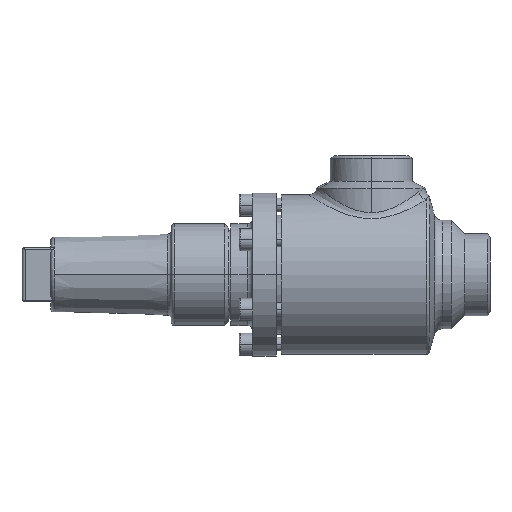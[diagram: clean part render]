
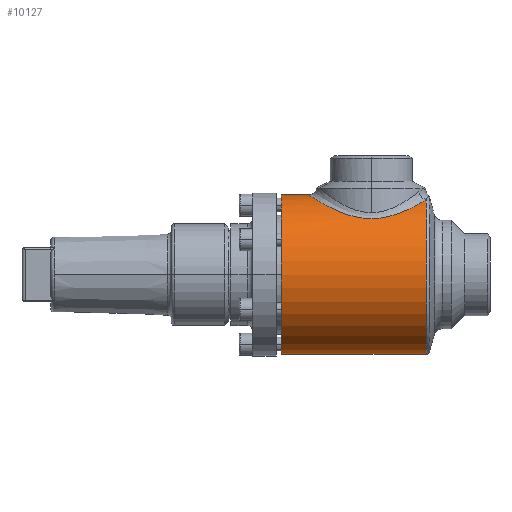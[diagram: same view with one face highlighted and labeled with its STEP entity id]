
A CAD part, left-side view. The second image highlights one B-rep face of the part: STEP entity #10127.
In plain terms, the highlighted cylindrical face has radius 47 mm (diameter 94 mm), a partial arc.
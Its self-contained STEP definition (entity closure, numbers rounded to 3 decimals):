
#1161 = ORIENTED_EDGE ( 'NONE', *, *, #14429, .T. ) ;
#1659 = EDGE_CURVE ( 'NONE', #2511, #12725, #6747, .T. ) ;
#2011 = ORIENTED_EDGE ( 'NONE', *, *, #1659, .T. ) ;
#2137 = ORIENTED_EDGE ( 'NONE', *, *, #14006, .F. ) ;
#2511 = VERTEX_POINT ( 'NONE', #9504 ) ;
#2730 = EDGE_CURVE ( 'NONE', #7236, #2511, #9711, .T. ) ;
#3049 = ORIENTED_EDGE ( 'NONE', *, *, #2730, .T. ) ;
#6747 = B_SPLINE_CURVE_WITH_KNOTS ( 'NONE', 3,
 ( #6748, #6749, #6750, #6751, #6752, #6753, #6754, #6755, #6756, #6757, #6758, #6761, #6762, #6763, #6764, #6765, #6766, #6767, #6768, #6769, #6770, #6771, #6772, #6773, #6774, #6775, #6776, #6780, #6781, #6782, #6783, #6784, #6785, #6786, #6787, #6788, #6789, #6790, #6791, #6792, #6793, #6794, #6795, #6797, #6798, #6799, #6800, #6801, #6802, #6803, #6804, #6805, #6806, #6807, #6808, #6809, #6810, #6811, #6812, #6814, #6815, #6816 ),
 .UNSPECIFIED., .F., .F.,
 ( 4, 2, 2, 2, 2, 2, 2, 2, 2, 2, 2, 2, 2, 2, 2, 2, 2, 2, 2, 2, 2, 2, 2, 2, 2, 2, 2, 2, 2, 2, 4 ),
 ( 0.017, 0.023, 0.026, 0.029, 0.035, 0.039, 0.04, 0.042, 0.048, 0.051, 0.052, 0.054, 0.06, 0.063, 0.066, 0.069, 0.072, 0.078, 0.081, 0.083, 0.084, 0.09, 0.093, 0.095, 0.096, 0.103, 0.106, 0.107, 0.109, 0.112, 0.115 ),
 .UNSPECIFIED. ) ;
#6748 = CARTESIAN_POINT ( 'NONE',  ( -16.073, -85.446, 44.166 ) ) ;
#6749 = CARTESIAN_POINT ( 'NONE',  ( -17.749, -84.43, 43.556 ) ) ;
#6750 = CARTESIAN_POINT ( 'NONE',  ( -19.293, -83.29, 42.887 ) ) ;
#6751 = CARTESIAN_POINT ( 'NONE',  ( -21.444, -81.41, 41.831 ) ) ;
#6752 = CARTESIAN_POINT ( 'NONE',  ( -22.133, -80.755, 41.469 ) ) ;
#6753 = CARTESIAN_POINT ( 'NONE',  ( -23.459, -79.389, 40.734 ) ) ;
#6754 = CARTESIAN_POINT ( 'NONE',  ( -24.096, -78.676, 40.359 ) ) ;
#6755 = CARTESIAN_POINT ( 'NONE',  ( -25.907, -76.48, 39.24 ) ) ;
#6756 = CARTESIAN_POINT ( 'NONE',  ( -26.989, -74.936, 38.497 ) ) ;
#6757 = CARTESIAN_POINT ( 'NONE',  ( -28.44, -72.491, 37.424 ) ) ;
#6758 = CARTESIAN_POINT ( 'NONE',  ( -28.894, -71.655, 37.073 ) ) ;
#6761 = CARTESIAN_POINT ( 'NONE',  ( -29.533, -70.366, 36.563 ) ) ;
#6762 = CARTESIAN_POINT ( 'NONE',  ( -29.739, -69.93, 36.396 ) ) ;
#6763 = CARTESIAN_POINT ( 'NONE',  ( -30.137, -69.047, 36.067 ) ) ;
#6764 = CARTESIAN_POINT ( 'NONE',  ( -30.328, -68.599, 35.906 ) ) ;
#6765 = CARTESIAN_POINT ( 'NONE',  ( -31.243, -66.344, 35.126 ) ) ;
#6766 = CARTESIAN_POINT ( 'NONE',  ( -31.842, -64.482, 34.576 ) ) ;
#6767 = CARTESIAN_POINT ( 'NONE',  ( -32.541, -61.591, 33.914 ) ) ;
#6768 = CARTESIAN_POINT ( 'NONE',  ( -32.74, -60.61, 33.721 ) ) ;
#6769 = CARTESIAN_POINT ( 'NONE',  ( -32.986, -59.111, 33.48 ) ) ;
#6770 = CARTESIAN_POINT ( 'NONE',  ( -33.059, -58.608, 33.408 ) ) ;
#6771 = CARTESIAN_POINT ( 'NONE',  ( -33.186, -57.603, 33.282 ) ) ;
#6772 = CARTESIAN_POINT ( 'NONE',  ( -33.239, -57.1, 33.229 ) ) ;
#6773 = CARTESIAN_POINT ( 'NONE',  ( -33.462, -54.583, 33.006 ) ) ;
#6774 = CARTESIAN_POINT ( 'NONE',  ( -33.49, -52.562, 32.976 ) ) ;
#6775 = CARTESIAN_POINT ( 'NONE',  ( -33.307, -49.52, 33.161 ) ) ;
#6776 = CARTESIAN_POINT ( 'NONE',  ( -33.207, -48.498, 33.262 ) ) ;
#6780 = CARTESIAN_POINT ( 'NONE',  ( -32.933, -46.49, 33.532 ) ) ;
#6781 = CARTESIAN_POINT ( 'NONE',  ( -32.761, -45.501, 33.702 ) ) ;
#6782 = CARTESIAN_POINT ( 'NONE',  ( -32.346, -43.55, 34.1 ) ) ;
#6783 = CARTESIAN_POINT ( 'NONE',  ( -32.103, -42.587, 34.33 ) ) ;
#6784 = CARTESIAN_POINT ( 'NONE',  ( -31.549, -40.688, 34.839 ) ) ;
#6785 = CARTESIAN_POINT ( 'NONE',  ( -31.237, -39.749, 35.121 ) ) ;
#6786 = CARTESIAN_POINT ( 'NONE',  ( -30.211, -37.009, 36.016 ) ) ;
#6787 = CARTESIAN_POINT ( 'NONE',  ( -29.406, -35.272, 36.683 ) ) ;
#6788 = CARTESIAN_POINT ( 'NONE',  ( -28.021, -32.781, 37.738 ) ) ;
#6789 = CARTESIAN_POINT ( 'NONE',  ( -27.529, -31.97, 38.099 ) ) ;
#6790 = CARTESIAN_POINT ( 'NONE',  ( -26.744, -30.781, 38.65 ) ) ;
#6791 = CARTESIAN_POINT ( 'NONE',  ( -26.475, -30.389, 38.835 ) ) ;
#6792 = CARTESIAN_POINT ( 'NONE',  ( -25.92, -29.615, 39.208 ) ) ;
#6793 = CARTESIAN_POINT ( 'NONE',  ( -25.634, -29.233, 39.396 ) ) ;
#6794 = CARTESIAN_POINT ( 'NONE',  ( -24.175, -27.357, 40.33 ) ) ;
#6795 = CARTESIAN_POINT ( 'NONE',  ( -22.902, -25.964, 41.072 ) ) ;
#6797 = CARTESIAN_POINT ( 'NONE',  ( -20.822, -24.029, 42.143 ) ) ;
#6798 = CARTESIAN_POINT ( 'NONE',  ( -20.099, -23.411, 42.494 ) ) ;
#6799 = CARTESIAN_POINT ( 'NONE',  ( -18.969, -22.523, 43.004 ) ) ;
#6800 = CARTESIAN_POINT ( 'NONE',  ( -18.584, -22.235, 43.172 ) ) ;
#6801 = CARTESIAN_POINT ( 'NONE',  ( -17.798, -21.671, 43.502 ) ) ;
#6802 = CARTESIAN_POINT ( 'NONE',  ( -17.396, -21.396, 43.664 ) ) ;
#6803 = CARTESIAN_POINT ( 'NONE',  ( -15.356, -20.064, 44.455 ) ) ;
#6804 = CARTESIAN_POINT ( 'NONE',  ( -13.635, -19.147, 45.018 ) ) ;
#6805 = CARTESIAN_POINT ( 'NONE',  ( -10.906, -18.006, 45.727 ) ) ;
#6806 = CARTESIAN_POINT ( 'NONE',  ( -9.972, -17.666, 45.94 ) ) ;
#6807 = CARTESIAN_POINT ( 'NONE',  ( -8.53, -17.219, 46.222 ) ) ;
#6808 = CARTESIAN_POINT ( 'NONE',  ( -8.041, -17.081, 46.31 ) ) ;
#6809 = CARTESIAN_POINT ( 'NONE',  ( -7.058, -16.829, 46.47 ) ) ;
#6810 = CARTESIAN_POINT ( 'NONE',  ( -6.563, -16.715, 46.542 ) ) ;
#6811 = CARTESIAN_POINT ( 'NONE',  ( -5.066, -16.41, 46.737 ) ) ;
#6812 = CARTESIAN_POINT ( 'NONE',  ( -4.049, -16.255, 46.836 ) ) ;
#6814 = CARTESIAN_POINT ( 'NONE',  ( -2.024, -16.051, 46.967 ) ) ;
#6815 = CARTESIAN_POINT ( 'NONE',  ( -1.011, -16., 47. ) ) ;
#6816 = CARTESIAN_POINT ( 'NONE',  ( 0., -16., 47. ) ) ;
#7236 = VERTEX_POINT ( 'NONE', #9706 ) ;
#8941 = CARTESIAN_POINT ( 'NONE',  ( 0., -16., 47. ) ) ;
#9410 = ORIENTED_EDGE ( 'NONE', *, *, #13228, .F. ) ;
#9504 = CARTESIAN_POINT ( 'NONE',  ( -16.073, -85.446, 44.166 ) ) ;
#9521 = CARTESIAN_POINT ( 'NONE',  ( 0., 0., -47. ) ) ;
#9563 = LINE ( 'NONE', #9564, #9565 ) ;
#9564 = CARTESIAN_POINT ( 'NONE',  ( 0., -91., -47. ) ) ;
#9565 = VECTOR ( 'NONE', #9566, 1000. ) ;
#9566 = DIRECTION ( 'NONE',  ( 0., 1., 0. ) ) ;
#9706 = CARTESIAN_POINT ( 'NONE',  ( 0., -85.446, -47. ) ) ;
#9711 = CIRCLE ( 'NONE', #9712, 47. ) ;
#9712 = AXIS2_PLACEMENT_3D ( 'NONE', #9713, #9714, #9715 ) ;
#9713 = CARTESIAN_POINT ( 'NONE',  ( 0., -85.446, 0. ) ) ;
#9714 = DIRECTION ( 'NONE',  ( 0., 1., 0. ) ) ;
#9715 = DIRECTION ( 'NONE',  ( 0., 0., -1. ) ) ;
#9902 = EDGE_LOOP ( 'NONE', ( #9410, #3049, #2011, #1161, #2137 ) ) ;
#10127 = ADVANCED_FACE ( 'NONE', ( #13269 ), #13270, .T. ) ;
#10216 = CARTESIAN_POINT ( 'NONE',  ( 0., 0., 47. ) ) ;
#10392 = CIRCLE ( 'NONE', #10393, 47. ) ;
#10393 = AXIS2_PLACEMENT_3D ( 'NONE', #10394, #10395, #10396 ) ;
#10394 = CARTESIAN_POINT ( 'NONE',  ( 0., 0., 0. ) ) ;
#10395 = DIRECTION ( 'NONE',  ( 0., 1., 0. ) ) ;
#10396 = DIRECTION ( 'NONE',  ( 0., 0., 1. ) ) ;
#10791 = LINE ( 'NONE', #10792, #10793 ) ;
#10792 = CARTESIAN_POINT ( 'NONE',  ( 0., -91., 47. ) ) ;
#10793 = VECTOR ( 'NONE', #10796, 1000. ) ;
#10796 = DIRECTION ( 'NONE',  ( 0., 1., 0. ) ) ;
#12725 = VERTEX_POINT ( 'NONE', #8941 ) ;
#13174 = VERTEX_POINT ( 'NONE', #9521 ) ;
#13228 = EDGE_CURVE ( 'NONE', #7236, #13174, #9563, .T. ) ;
#13269 = FACE_OUTER_BOUND ( 'NONE', #9902, .T. ) ;
#13270 = CYLINDRICAL_SURFACE ( 'NONE', #13271, 47. ) ;
#13271 = AXIS2_PLACEMENT_3D ( 'NONE', #13272, #13273, #13274 ) ;
#13272 = CARTESIAN_POINT ( 'NONE',  ( 0., -91., 0. ) ) ;
#13273 = DIRECTION ( 'NONE',  ( 0., 1., 0. ) ) ;
#13274 = DIRECTION ( 'NONE',  ( 0., 0., 1. ) ) ;
#13779 = VERTEX_POINT ( 'NONE', #10216 ) ;
#14006 = EDGE_CURVE ( 'NONE', #13174, #13779, #10392, .T. ) ;
#14429 = EDGE_CURVE ( 'NONE', #12725, #13779, #10791, .T. ) ;
